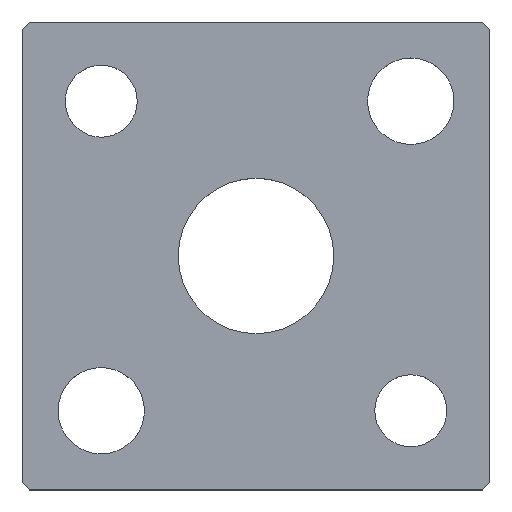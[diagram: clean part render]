
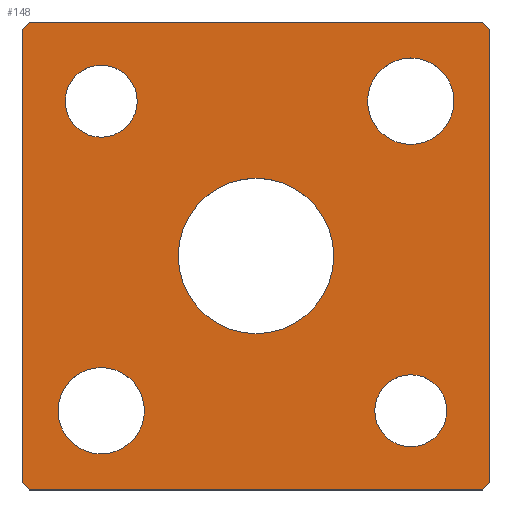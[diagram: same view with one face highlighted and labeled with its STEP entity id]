
A CAD part, top view. The second image highlights one B-rep face of the part: STEP entity #148.
In plain terms, the highlighted planar face has unit normal (0, 0, 1).
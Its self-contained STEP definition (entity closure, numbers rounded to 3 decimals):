
#117=CIRCLE('',#503,10.8);
#118=CIRCLE('',#504,10.8);
#119=CIRCLE('',#505,5.);
#120=CIRCLE('',#506,5.);
#121=CIRCLE('',#507,6.);
#122=CIRCLE('',#508,6.);
#123=CIRCLE('',#509,6.);
#124=CIRCLE('',#510,6.);
#125=CIRCLE('',#511,5.);
#126=CIRCLE('',#512,5.);
#133=FACE_BOUND('',#201,.T.);
#134=FACE_BOUND('',#202,.T.);
#135=FACE_BOUND('',#203,.T.);
#136=FACE_BOUND('',#204,.T.);
#137=FACE_BOUND('',#205,.T.);
#138=FACE_BOUND('',#206,.T.);
#148=ADVANCED_FACE('',(#133,#134,#135,#136,#137,#138),#168,.T.);
#168=PLANE('',#513);
#201=EDGE_LOOP('',(#267,#268,#269,#270,#271,#272,#273,#274));
#202=EDGE_LOOP('',(#275,#276));
#203=EDGE_LOOP('',(#277,#278));
#204=EDGE_LOOP('',(#279,#280));
#205=EDGE_LOOP('',(#281,#282));
#206=EDGE_LOOP('',(#283,#284));
#267=ORIENTED_EDGE('',*,*,#362,.T.);
#268=ORIENTED_EDGE('',*,*,#366,.T.);
#269=ORIENTED_EDGE('',*,*,#369,.T.);
#270=ORIENTED_EDGE('',*,*,#372,.T.);
#271=ORIENTED_EDGE('',*,*,#375,.T.);
#272=ORIENTED_EDGE('',*,*,#378,.T.);
#273=ORIENTED_EDGE('',*,*,#381,.T.);
#274=ORIENTED_EDGE('',*,*,#384,.T.);
#275=ORIENTED_EDGE('',*,*,#395,.T.);
#276=ORIENTED_EDGE('',*,*,#396,.T.);
#277=ORIENTED_EDGE('',*,*,#397,.T.);
#278=ORIENTED_EDGE('',*,*,#398,.T.);
#279=ORIENTED_EDGE('',*,*,#399,.T.);
#280=ORIENTED_EDGE('',*,*,#400,.T.);
#281=ORIENTED_EDGE('',*,*,#401,.T.);
#282=ORIENTED_EDGE('',*,*,#402,.T.);
#283=ORIENTED_EDGE('',*,*,#403,.T.);
#284=ORIENTED_EDGE('',*,*,#404,.T.);
#326=VERTEX_POINT('',#643);
#327=VERTEX_POINT('',#645);
#330=VERTEX_POINT('',#652);
#332=VERTEX_POINT('',#658);
#334=VERTEX_POINT('',#664);
#336=VERTEX_POINT('',#670);
#338=VERTEX_POINT('',#676);
#340=VERTEX_POINT('',#682);
#351=VERTEX_POINT('',#711);
#352=VERTEX_POINT('',#712);
#353=VERTEX_POINT('',#715);
#354=VERTEX_POINT('',#716);
#355=VERTEX_POINT('',#719);
#356=VERTEX_POINT('',#720);
#357=VERTEX_POINT('',#723);
#358=VERTEX_POINT('',#724);
#359=VERTEX_POINT('',#727);
#360=VERTEX_POINT('',#728);
#362=EDGE_CURVE('',#327,#326,#416,.T.);
#366=EDGE_CURVE('',#326,#330,#420,.T.);
#369=EDGE_CURVE('',#330,#332,#423,.T.);
#372=EDGE_CURVE('',#332,#334,#426,.T.);
#375=EDGE_CURVE('',#334,#336,#429,.T.);
#378=EDGE_CURVE('',#336,#338,#432,.T.);
#381=EDGE_CURVE('',#338,#340,#435,.T.);
#384=EDGE_CURVE('',#340,#327,#438,.T.);
#395=EDGE_CURVE('',#351,#352,#117,.T.);
#396=EDGE_CURVE('',#352,#351,#118,.T.);
#397=EDGE_CURVE('',#353,#354,#119,.T.);
#398=EDGE_CURVE('',#354,#353,#120,.T.);
#399=EDGE_CURVE('',#355,#356,#121,.T.);
#400=EDGE_CURVE('',#356,#355,#122,.T.);
#401=EDGE_CURVE('',#357,#358,#123,.T.);
#402=EDGE_CURVE('',#358,#357,#124,.T.);
#403=EDGE_CURVE('',#359,#360,#125,.T.);
#404=EDGE_CURVE('',#360,#359,#126,.T.);
#416=LINE('',#644,#450);
#420=LINE('',#653,#454);
#423=LINE('',#659,#457);
#426=LINE('',#665,#460);
#429=LINE('',#671,#463);
#432=LINE('',#677,#466);
#435=LINE('',#683,#469);
#438=LINE('',#687,#472);
#450=VECTOR('',#527,1.);
#454=VECTOR('',#533,1.);
#457=VECTOR('',#538,1.);
#460=VECTOR('',#543,1.);
#463=VECTOR('',#548,1.);
#466=VECTOR('',#553,1.);
#469=VECTOR('',#558,1.);
#472=VECTOR('',#563,1.);
#503=AXIS2_PLACEMENT_3D('',#710,#588,#589);
#504=AXIS2_PLACEMENT_3D('',#713,#590,#591);
#505=AXIS2_PLACEMENT_3D('',#714,#592,#593);
#506=AXIS2_PLACEMENT_3D('',#717,#594,#595);
#507=AXIS2_PLACEMENT_3D('',#718,#596,#597);
#508=AXIS2_PLACEMENT_3D('',#721,#598,#599);
#509=AXIS2_PLACEMENT_3D('',#722,#600,#601);
#510=AXIS2_PLACEMENT_3D('',#725,#602,#603);
#511=AXIS2_PLACEMENT_3D('',#726,#604,#605);
#512=AXIS2_PLACEMENT_3D('',#729,#606,#607);
#513=AXIS2_PLACEMENT_3D('',#730,#608,#609);
#527=DIRECTION('',(0.707,-0.707,0.));
#533=DIRECTION('',(1.,0.,0.));
#538=DIRECTION('',(0.707,0.707,0.));
#543=DIRECTION('',(0.,1.,0.));
#548=DIRECTION('',(-0.707,0.707,0.));
#553=DIRECTION('',(-1.,0.,0.));
#558=DIRECTION('',(-0.707,-0.707,0.));
#563=DIRECTION('',(0.,-1.,0.));
#588=DIRECTION('',(0.,0.,-1.));
#589=DIRECTION('',(-1.,0.,0.));
#590=DIRECTION('',(0.,0.,-1.));
#591=DIRECTION('',(1.,0.,0.));
#592=DIRECTION('',(0.,0.,-1.));
#593=DIRECTION('',(-1.,0.,0.));
#594=DIRECTION('',(0.,0.,-1.));
#595=DIRECTION('',(1.,0.,0.));
#596=DIRECTION('',(0.,0.,-1.));
#597=DIRECTION('',(-1.,0.,0.));
#598=DIRECTION('',(0.,0.,-1.));
#599=DIRECTION('',(1.,0.,0.));
#600=DIRECTION('',(0.,0.,-1.));
#601=DIRECTION('',(-1.,0.,0.));
#602=DIRECTION('',(0.,0.,-1.));
#603=DIRECTION('',(1.,0.,0.));
#604=DIRECTION('',(0.,0.,-1.));
#605=DIRECTION('',(-1.,0.,0.));
#606=DIRECTION('',(0.,0.,-1.));
#607=DIRECTION('',(1.,0.,0.));
#608=DIRECTION('',(0.,0.,1.));
#609=DIRECTION('',(0.,-1.,0.));
#643=CARTESIAN_POINT('',(-31.5,-32.5,5.));
#644=CARTESIAN_POINT('',(-32.5,-31.5,5.));
#645=CARTESIAN_POINT('',(-32.5,-31.5,5.));
#652=CARTESIAN_POINT('',(31.5,-32.5,5.));
#653=CARTESIAN_POINT('',(-31.5,-32.5,5.));
#658=CARTESIAN_POINT('',(32.5,-31.5,5.));
#659=CARTESIAN_POINT('',(32.5,-31.5,5.));
#664=CARTESIAN_POINT('',(32.5,31.5,5.));
#665=CARTESIAN_POINT('',(32.5,31.5,5.));
#670=CARTESIAN_POINT('',(31.5,32.5,5.));
#671=CARTESIAN_POINT('',(31.5,32.5,5.));
#676=CARTESIAN_POINT('',(-31.5,32.5,5.));
#677=CARTESIAN_POINT('',(-31.5,32.5,5.));
#682=CARTESIAN_POINT('',(-32.5,31.5,5.));
#683=CARTESIAN_POINT('',(-32.5,31.5,5.));
#687=CARTESIAN_POINT('',(-32.5,31.5,5.));
#710=CARTESIAN_POINT('',(0.,0.,5.));
#711=CARTESIAN_POINT('',(0.,10.8,5.));
#712=CARTESIAN_POINT('',(0.,-10.8,5.));
#713=CARTESIAN_POINT('',(0.,0.,5.));
#714=CARTESIAN_POINT('',(-21.5,21.5,5.));
#715=CARTESIAN_POINT('',(-21.5,26.5,5.));
#716=CARTESIAN_POINT('',(-21.5,16.5,5.));
#717=CARTESIAN_POINT('',(-21.5,21.5,5.));
#718=CARTESIAN_POINT('',(21.5,21.5,5.));
#719=CARTESIAN_POINT('',(21.5,27.5,5.));
#720=CARTESIAN_POINT('',(21.5,15.5,5.));
#721=CARTESIAN_POINT('',(21.5,21.5,5.));
#722=CARTESIAN_POINT('',(-21.5,-21.5,5.));
#723=CARTESIAN_POINT('',(-21.5,-15.5,5.));
#724=CARTESIAN_POINT('',(-21.5,-27.5,5.));
#725=CARTESIAN_POINT('',(-21.5,-21.5,5.));
#726=CARTESIAN_POINT('',(21.5,-21.5,5.));
#727=CARTESIAN_POINT('',(21.5,-16.5,5.));
#728=CARTESIAN_POINT('',(21.5,-26.5,5.));
#729=CARTESIAN_POINT('',(21.5,-21.5,5.));
#730=CARTESIAN_POINT('',(-32.5,-31.5,5.));
